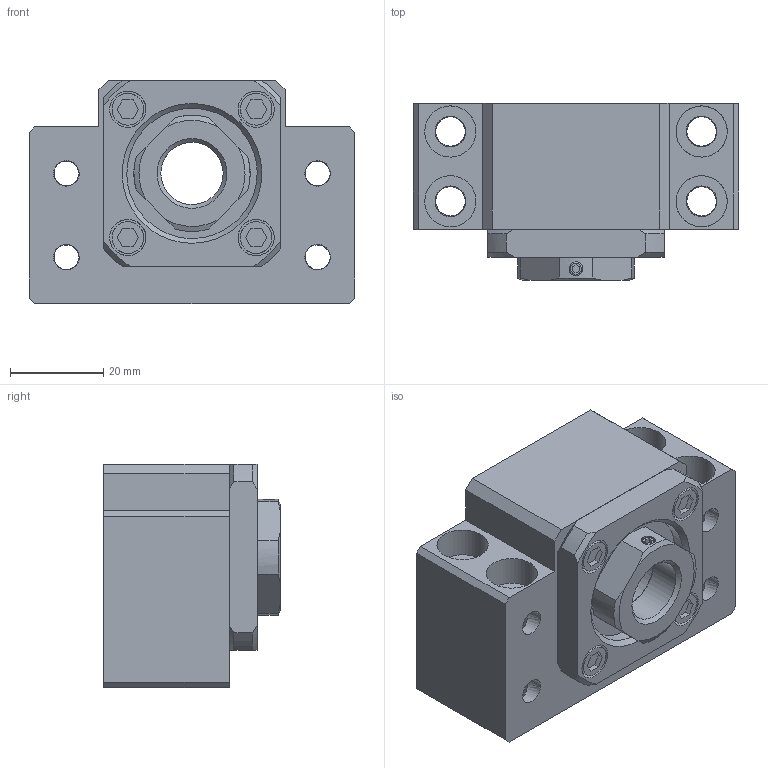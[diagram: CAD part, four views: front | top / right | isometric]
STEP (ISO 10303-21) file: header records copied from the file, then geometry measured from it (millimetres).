
FILE_DESCRIPTION( ('This file contains a STEP AP42 implementation' ,'as created by ZW3D STEP Interface translator.') ,'2;1' );
FILE_NAME( '88F9B4B2-DB8D-E21D-9CF4-9498C63A149E.stp' ,'18 315.17 958', (''), ('ZWCAD Software Co.'), 'Version 1.0', 'ZW3D to STEP translator', '' );
FILE_SCHEMA( ('CONFIG_CONTROL_DESIGN') );
Length unit declared in the file: millimetre
Products named in the file (4): 0; FSFBK-15; _BK 15collar; _BK 15
Assembly tree (2 placements, depth 2):
  0
  FSFBK-15
    _BK 15collar
    _BK 15
Bounding box: 70 x 38 x 48 mm (x, y, z)
Volume: 77742.5 mm3; surface area: 26101.1 mm2
Topology: 2 solids, 3 shells, 161 faces, 411 edges, 275 vertices
Faces by surface type: bspline 161
Entity records: 6373 total; most frequent: CARTESIAN_POINT 3624, ORIENTED_EDGE 822, EDGE_CURVE 411, B_SPLINE_CURVE_WITH_KNOTS 296, VERTEX_POINT 275, EDGE_LOOP 216, FACE_OUTER_BOUND 161, ADVANCED_FACE 161
